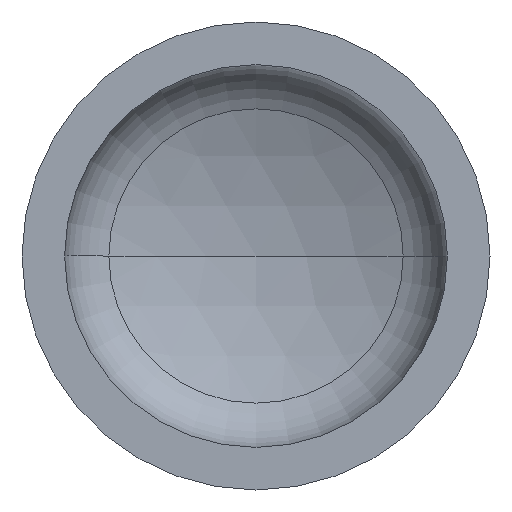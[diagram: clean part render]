
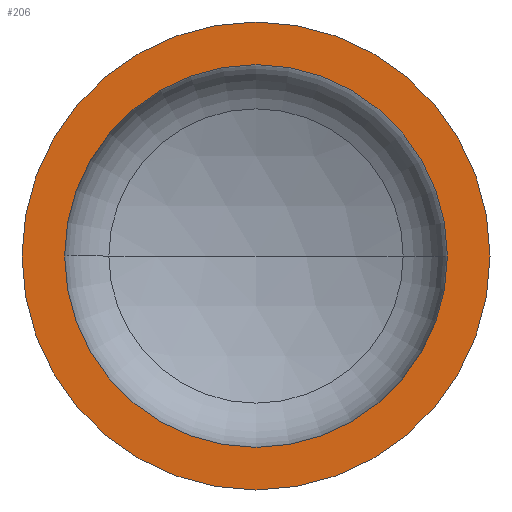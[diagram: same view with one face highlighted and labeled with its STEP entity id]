
A CAD part, front view. The second image highlights one B-rep face of the part: STEP entity #206.
In plain terms, the highlighted planar face has unit normal (0, -1, 0).
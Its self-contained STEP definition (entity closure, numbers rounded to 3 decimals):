
#14 = EDGE_LOOP ( 'NONE', ( #83, #26 ) ) ;
#21 = DIRECTION ( 'NONE',  ( 0., 1., 0. ) ) ;
#26 = ORIENTED_EDGE ( 'NONE', *, *, #138, .T. ) ;
#30 = VERTEX_POINT ( 'NONE', #255 ) ;
#40 = PLANE ( 'NONE',  #76 ) ;
#44 = VERTEX_POINT ( 'NONE', #244 ) ;
#52 = ORIENTED_EDGE ( 'NONE', *, *, #140, .F. ) ;
#55 = AXIS2_PLACEMENT_3D ( 'NONE', #70, #196, #197 ) ;
#57 = EDGE_LOOP ( 'NONE', ( #52, #123 ) ) ;
#70 = CARTESIAN_POINT ( 'NONE',  ( 0., 0., 0. ) ) ;
#76 = AXIS2_PLACEMENT_3D ( 'NONE', #164, #21, #158 ) ;
#80 = AXIS2_PLACEMENT_3D ( 'NONE', #222, #261, #259 ) ;
#83 = ORIENTED_EDGE ( 'NONE', *, *, #301, .T. ) ;
#87 = VERTEX_POINT ( 'NONE', #254 ) ;
#93 = FACE_BOUND ( 'NONE', #57, .T. ) ;
#99 = AXIS2_PLACEMENT_3D ( 'NONE', #210, #315, #308 ) ;
#104 = AXIS2_PLACEMENT_3D ( 'NONE', #302, #300, #299 ) ;
#123 = ORIENTED_EDGE ( 'NONE', *, *, #241, .F. ) ;
#138 = EDGE_CURVE ( 'NONE', #234, #44, #276, .T. ) ;
#140 = EDGE_CURVE ( 'NONE', #30, #87, #149, .T. ) ;
#149 = CIRCLE ( 'NONE', #99, 368. ) ;
#158 = DIRECTION ( 'NONE',  ( -1., 0., 0. ) ) ;
#164 = CARTESIAN_POINT ( 'NONE',  ( -450., 0., 0. ) ) ;
#179 = CIRCLE ( 'NONE', #55, 450. ) ;
#194 = CIRCLE ( 'NONE', #80, 368. ) ;
#196 = DIRECTION ( 'NONE',  ( 0., -1., 0. ) ) ;
#197 = DIRECTION ( 'NONE',  ( 1., 0., 0. ) ) ;
#200 = FACE_OUTER_BOUND ( 'NONE', #14, .T. ) ;
#206 = ADVANCED_FACE ( 'NONE', ( #93, #200 ), #40, .F. ) ;
#210 = CARTESIAN_POINT ( 'NONE',  ( 0., 0., 0. ) ) ;
#222 = CARTESIAN_POINT ( 'NONE',  ( 0., 0., 0. ) ) ;
#234 = VERTEX_POINT ( 'NONE', #411 ) ;
#241 = EDGE_CURVE ( 'NONE', #87, #30, #194, .T. ) ;
#244 = CARTESIAN_POINT ( 'NONE',  ( 450., 0., 0. ) ) ;
#254 = CARTESIAN_POINT ( 'NONE',  ( -368., 0., 0. ) ) ;
#255 = CARTESIAN_POINT ( 'NONE',  ( 368., 0., 0. ) ) ;
#259 = DIRECTION ( 'NONE',  ( 1., 0., 0. ) ) ;
#261 = DIRECTION ( 'NONE',  ( 0., -1., 0. ) ) ;
#276 = CIRCLE ( 'NONE', #104, 450. ) ;
#299 = DIRECTION ( 'NONE',  ( 1., 0., 0. ) ) ;
#300 = DIRECTION ( 'NONE',  ( 0., -1., 0. ) ) ;
#301 = EDGE_CURVE ( 'NONE', #44, #234, #179, .T. ) ;
#302 = CARTESIAN_POINT ( 'NONE',  ( 0., 0., 0. ) ) ;
#308 = DIRECTION ( 'NONE',  ( 1., 0., 0. ) ) ;
#315 = DIRECTION ( 'NONE',  ( 0., -1., 0. ) ) ;
#411 = CARTESIAN_POINT ( 'NONE',  ( -450., 0., 0. ) ) ;
